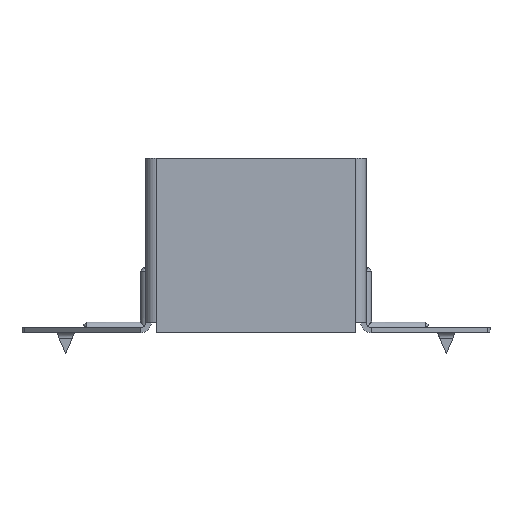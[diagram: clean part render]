
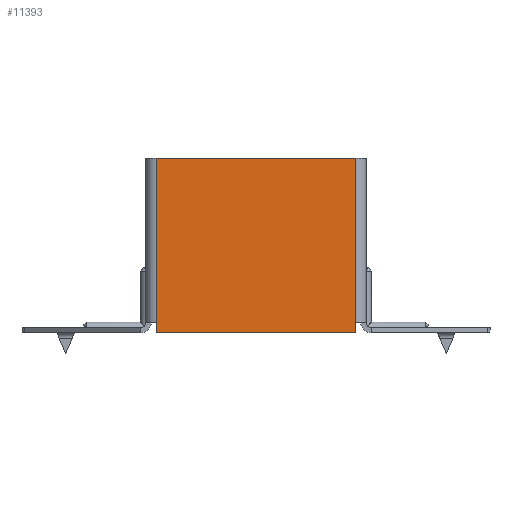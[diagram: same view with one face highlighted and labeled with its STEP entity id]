
A CAD part, front view. The second image highlights one B-rep face of the part: STEP entity #11393.
In plain terms, the highlighted planar face has unit normal (0, -1, 0).
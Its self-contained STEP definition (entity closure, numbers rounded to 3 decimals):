
#242 = DIRECTION ( 'NONE',  ( -1., 0., 0. ) ) ;
#246 = VERTEX_POINT ( 'NONE', #11761 ) ;
#673 = VERTEX_POINT ( 'NONE', #8630 ) ;
#688 = VERTEX_POINT ( 'NONE', #9577 ) ;
#728 = ORIENTED_EDGE ( 'NONE', *, *, #10863, .T. ) ;
#866 = CARTESIAN_POINT ( 'NONE',  ( -28.5, 0., 0. ) ) ;
#911 = DIRECTION ( 'NONE',  ( 0., 0., -1. ) ) ;
#1117 = VERTEX_POINT ( 'NONE', #7006 ) ;
#1931 = CARTESIAN_POINT ( 'NONE',  ( 28.5, 0., -70. ) ) ;
#2339 = CARTESIAN_POINT ( 'NONE',  ( 0., 0., 0. ) ) ;
#2421 = CARTESIAN_POINT ( 'NONE',  ( -30., 0., -70. ) ) ;
#2863 = VECTOR ( 'NONE', #4385, 1000. ) ;
#2871 = LINE ( 'NONE', #12291, #13048 ) ;
#3139 = CARTESIAN_POINT ( 'NONE',  ( -28.5, 0., 0. ) ) ;
#3276 = VECTOR ( 'NONE', #9831, 1000. ) ;
#3916 = VECTOR ( 'NONE', #8485, 1000. ) ;
#4175 = CARTESIAN_POINT ( 'NONE',  ( -28.5, 0., -70. ) ) ;
#4359 = VERTEX_POINT ( 'NONE', #6983 ) ;
#4385 = DIRECTION ( 'NONE',  ( -1., 0., 0. ) ) ;
#4486 = ORIENTED_EDGE ( 'NONE', *, *, #5802, .F. ) ;
#5274 = AXIS2_PLACEMENT_3D ( 'NONE', #2339, #6309, #7333 ) ;
#5560 = LINE ( 'NONE', #2421, #2863 ) ;
#5802 = EDGE_CURVE ( 'NONE', #1117, #12417, #5560, .T. ) ;
#6309 = DIRECTION ( 'NONE',  ( 0., 1., 0. ) ) ;
#6855 = EDGE_LOOP ( 'NONE', ( #9409, #728, #10397, #4486, #11760, #10336 ) ) ;
#6983 = CARTESIAN_POINT ( 'NONE',  ( 28.5, 0., -20. ) ) ;
#7006 = CARTESIAN_POINT ( 'NONE',  ( 28.5, 0., -70. ) ) ;
#7088 = LINE ( 'NONE', #866, #10263 ) ;
#7333 = DIRECTION ( 'NONE',  ( 0., 0., 1. ) ) ;
#7637 = VECTOR ( 'NONE', #11986, 1000. ) ;
#7747 = EDGE_CURVE ( 'NONE', #1117, #673, #12662, .T. ) ;
#7976 = EDGE_CURVE ( 'NONE', #4359, #688, #2871, .T. ) ;
#8485 = DIRECTION ( 'NONE',  ( 0., 0., -1. ) ) ;
#8630 = CARTESIAN_POINT ( 'NONE',  ( 28.5, 0., -67. ) ) ;
#9409 = ORIENTED_EDGE ( 'NONE', *, *, #7976, .T. ) ;
#9510 = EDGE_CURVE ( 'NONE', #673, #4359, #9808, .T. ) ;
#9577 = CARTESIAN_POINT ( 'NONE',  ( -28.5, 0., -20. ) ) ;
#9808 = LINE ( 'NONE', #1931, #3276 ) ;
#9831 = DIRECTION ( 'NONE',  ( 0., 0., 1. ) ) ;
#10263 = VECTOR ( 'NONE', #911, 1000. ) ;
#10336 = ORIENTED_EDGE ( 'NONE', *, *, #9510, .T. ) ;
#10397 = ORIENTED_EDGE ( 'NONE', *, *, #12473, .T. ) ;
#10861 = CARTESIAN_POINT ( 'NONE',  ( 28.5, 0., -70. ) ) ;
#10863 = EDGE_CURVE ( 'NONE', #688, #246, #7088, .T. ) ;
#10927 = LINE ( 'NONE', #3139, #3916 ) ;
#11393 = ADVANCED_FACE ( 'NONE', ( #13104 ), #11509, .F. ) ;
#11509 = PLANE ( 'NONE',  #5274 ) ;
#11760 = ORIENTED_EDGE ( 'NONE', *, *, #7747, .T. ) ;
#11761 = CARTESIAN_POINT ( 'NONE',  ( -28.5, 0., -67. ) ) ;
#11986 = DIRECTION ( 'NONE',  ( 0., 0., 1. ) ) ;
#12291 = CARTESIAN_POINT ( 'NONE',  ( 0., 0., -20. ) ) ;
#12417 = VERTEX_POINT ( 'NONE', #4175 ) ;
#12473 = EDGE_CURVE ( 'NONE', #246, #12417, #10927, .T. ) ;
#12662 = LINE ( 'NONE', #10861, #7637 ) ;
#13048 = VECTOR ( 'NONE', #242, 1000. ) ;
#13104 = FACE_OUTER_BOUND ( 'NONE', #6855, .T. ) ;
